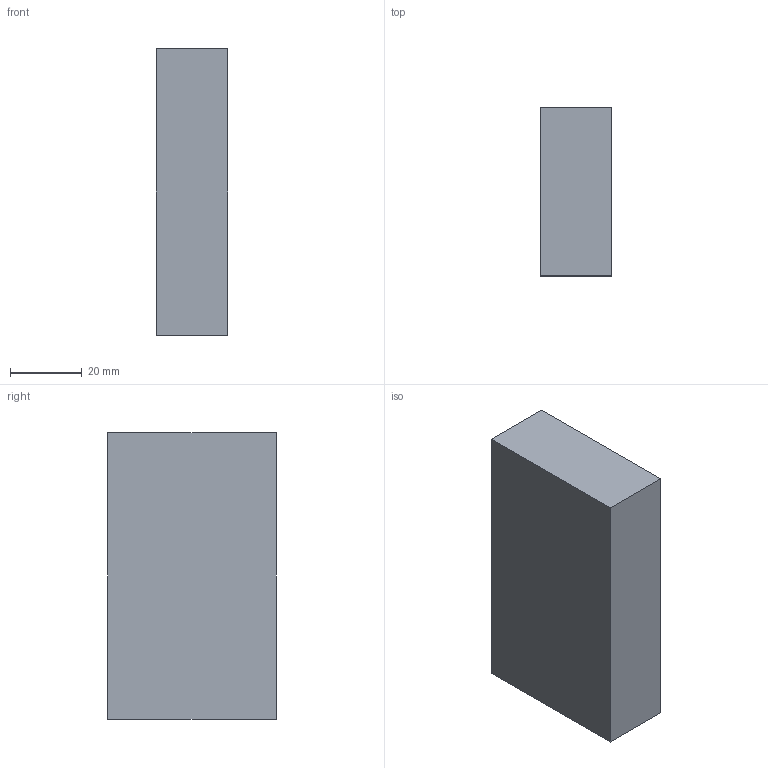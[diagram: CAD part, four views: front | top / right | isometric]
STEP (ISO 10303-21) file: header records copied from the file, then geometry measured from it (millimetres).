
FILE_DESCRIPTION(('Open CASCADE Model'),'2;1');
FILE_NAME('Open CASCADE Shape Model','2026-09-19T23:46:40',('Author'),( 'Open CASCADE'),'Open CASCADE STEP processor 7.9','Open CASCADE 7.9' ,'Unknown');
FILE_SCHEMA(('AUTOMOTIVE_DESIGN { 1 0 10303 214 1 1 1 1 }'));
Length unit declared in the file: millimetre
Products named in the file (1): Open CASCADE STEP translator 7.9 67
Bounding box: 20 x 47 x 80 mm (x, y, z)
Volume: 75200 mm3; surface area: 12600 mm2
Topology: 1 solids, 1 shells, 6 faces, 12 edges, 8 vertices
Faces by surface type: plane 6
Entity records: 322 total; most frequent: CARTESIAN_POINT 51, DIRECTION 50, LINE 36, VECTOR 36, ORIENTED_EDGE 24, PCURVE 24, DEFINITIONAL_REPRESENTATION 24, EDGE_CURVE 12
